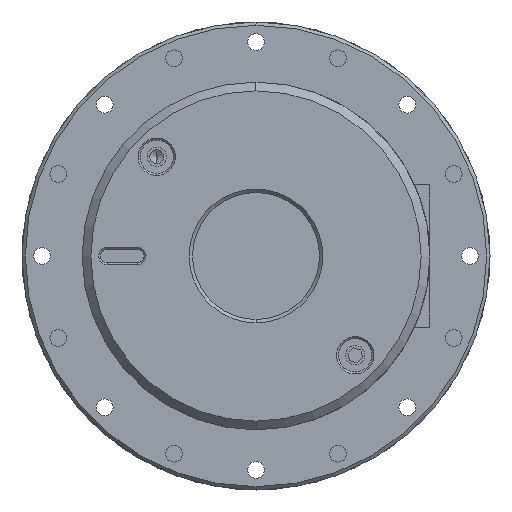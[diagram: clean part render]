
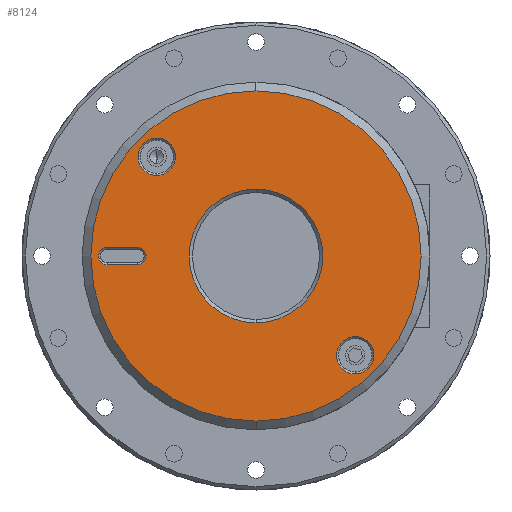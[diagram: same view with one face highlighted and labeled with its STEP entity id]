
A CAD part, left-side view. The second image highlights one B-rep face of the part: STEP entity #8124.
In plain terms, the highlighted planar face has unit normal (-1, 0, 0) as drawn and (0, 0, 1) by its records, which use the part's own axes.
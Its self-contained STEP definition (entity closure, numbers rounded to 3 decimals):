
#408 = EDGE_CURVE ( 'NONE', #1003, #24304, #21959, .T. ) ;
#527 = CARTESIAN_POINT ( 'NONE',  ( -1.3, -17.75, 7. ) ) ;
#535 = ORIENTED_EDGE ( 'NONE', *, *, #14754, .T. ) ;
#671 = CARTESIAN_POINT ( 'NONE',  ( -12.049, -14.849, 7. ) ) ;
#722 = VERTEX_POINT ( 'NONE', #18734 ) ;
#1003 = VERTEX_POINT ( 'NONE', #30877 ) ;
#1146 = EDGE_CURVE ( 'NONE', #28635, #722, #4173, .T. ) ;
#2706 = ORIENTED_EDGE ( 'NONE', *, *, #5081, .T. ) ;
#2815 = DIRECTION ( 'NONE',  ( 0., 0., 1. ) ) ;
#3268 = EDGE_CURVE ( 'NONE', #24304, #1003, #20725, .T. ) ;
#3507 = DIRECTION ( 'NONE',  ( 0., 0., 1. ) ) ;
#3764 = DIRECTION ( 'NONE',  ( 1., 0., 0. ) ) ;
#3951 = CARTESIAN_POINT ( 'NONE',  ( 0., 0., 7. ) ) ;
#3984 = PLANE ( 'NONE',  #8716 ) ;
#3997 = DIRECTION ( 'NONE',  ( 0., 0., 1. ) ) ;
#4067 = ORIENTED_EDGE ( 'NONE', *, *, #18912, .T. ) ;
#4173 = CIRCLE ( 'NONE', #28838, 10. ) ;
#4204 = CARTESIAN_POINT ( 'NONE',  ( 1.3, -17.75, 7. ) ) ;
#4443 = EDGE_CURVE ( 'NONE', #7850, #7074, #23476, .T. ) ;
#4504 = VERTEX_POINT ( 'NONE', #527 ) ;
#4509 = CIRCLE ( 'NONE', #30205, 1.3 ) ;
#4536 = CARTESIAN_POINT ( 'NONE',  ( -1.3, -17.75, 7. ) ) ;
#4873 = DIRECTION ( 'NONE',  ( 0., 0., -1. ) ) ;
#4979 = EDGE_LOOP ( 'NONE', ( #20133, #19145 ) ) ;
#5081 = EDGE_CURVE ( 'NONE', #5717, #5670, #32651, .T. ) ;
#5238 = CARTESIAN_POINT ( 'NONE',  ( -24.7, 0., 7. ) ) ;
#5454 = FACE_BOUND ( 'NONE', #9508, .T. ) ;
#5670 = VERTEX_POINT ( 'NONE', #18572 ) ;
#5717 = VERTEX_POINT ( 'NONE', #4204 ) ;
#6297 = DIRECTION ( 'NONE',  ( 0., 0., 1. ) ) ;
#6575 = CARTESIAN_POINT ( 'NONE',  ( -1.3, -22.25, 7. ) ) ;
#6677 = CARTESIAN_POINT ( 'NONE',  ( 14.849, 14.849, 7. ) ) ;
#6785 = DIRECTION ( 'NONE',  ( 1., 0., 0. ) ) ;
#7074 = VERTEX_POINT ( 'NONE', #21560 ) ;
#7361 = VERTEX_POINT ( 'NONE', #671 ) ;
#7500 = EDGE_LOOP ( 'NONE', ( #30985, #21871 ) ) ;
#7512 = DIRECTION ( 'NONE',  ( 0., 0., 1. ) ) ;
#7850 = VERTEX_POINT ( 'NONE', #5238 ) ;
#8124 = ADVANCED_FACE ( 'NONE', ( #5454, #12338, #32849, #18364, #11507 ), #3984, .T. ) ;
#8716 = AXIS2_PLACEMENT_3D ( 'NONE', #9039, #9154, #27185 ) ;
#8839 = DIRECTION ( 'NONE',  ( 0., 0., 1. ) ) ;
#9039 = CARTESIAN_POINT ( 'NONE',  ( 0., 0., 7. ) ) ;
#9154 = DIRECTION ( 'NONE',  ( 0., 0., 1. ) ) ;
#9508 = EDGE_LOOP ( 'NONE', ( #31381, #2706, #4067, #535 ) ) ;
#9867 = DIRECTION ( 'NONE',  ( 0., 0., -1. ) ) ;
#10090 = DIRECTION ( 'NONE',  ( 0., 0., 1. ) ) ;
#10450 = EDGE_CURVE ( 'NONE', #722, #28635, #28978, .T. ) ;
#10911 = ORIENTED_EDGE ( 'NONE', *, *, #1146, .F. ) ;
#11197 = DIRECTION ( 'NONE',  ( 1., 0., 0. ) ) ;
#11507 = FACE_BOUND ( 'NONE', #26629, .T. ) ;
#11594 = AXIS2_PLACEMENT_3D ( 'NONE', #22971, #7512, #25559 ) ;
#12338 = FACE_BOUND ( 'NONE', #4979, .T. ) ;
#12354 = DIRECTION ( 'NONE',  ( 0., 0., 1. ) ) ;
#12715 = AXIS2_PLACEMENT_3D ( 'NONE', #6677, #6297, #6785 ) ;
#12962 = ORIENTED_EDGE ( 'NONE', *, *, #3268, .F. ) ;
#13174 = ORIENTED_EDGE ( 'NONE', *, *, #10450, .F. ) ;
#13646 = AXIS2_PLACEMENT_3D ( 'NONE', #18270, #2815, #20864 ) ;
#14754 = EDGE_CURVE ( 'NONE', #30194, #4504, #17049, .T. ) ;
#14842 = VERTEX_POINT ( 'NONE', #28091 ) ;
#14946 = EDGE_CURVE ( 'NONE', #14842, #7361, #24296, .T. ) ;
#16709 = CARTESIAN_POINT ( 'NONE',  ( 17.649, 14.849, 7. ) ) ;
#16836 = CIRCLE ( 'NONE', #31167, 1.3 ) ;
#17049 = LINE ( 'NONE', #4536, #24707 ) ;
#17901 = AXIS2_PLACEMENT_3D ( 'NONE', #27780, #12354, #30367 ) ;
#17982 = DIRECTION ( 'NONE',  ( 0., -1., 0. ) ) ;
#18270 = CARTESIAN_POINT ( 'NONE',  ( -14.849, -14.849, 7. ) ) ;
#18364 = FACE_OUTER_BOUND ( 'NONE', #7500, .T. ) ;
#18572 = CARTESIAN_POINT ( 'NONE',  ( 1.3, -22.25, 7. ) ) ;
#18667 = ORIENTED_EDGE ( 'NONE', *, *, #408, .F. ) ;
#18734 = CARTESIAN_POINT ( 'NONE',  ( 10., 0., 7. ) ) ;
#18756 = AXIS2_PLACEMENT_3D ( 'NONE', #3951, #3997, #3764 ) ;
#18912 = EDGE_CURVE ( 'NONE', #5670, #30194, #16836, .T. ) ;
#18969 = CARTESIAN_POINT ( 'NONE',  ( 14.849, 14.849, 7. ) ) ;
#19145 = ORIENTED_EDGE ( 'NONE', *, *, #14946, .F. ) ;
#20133 = ORIENTED_EDGE ( 'NONE', *, *, #31974, .F. ) ;
#20176 = CARTESIAN_POINT ( 'NONE',  ( 1.3, -22.25, 7. ) ) ;
#20325 = CARTESIAN_POINT ( 'NONE',  ( 0., -17.75, 7. ) ) ;
#20725 = CIRCLE ( 'NONE', #12715, 2.8 ) ;
#20864 = DIRECTION ( 'NONE',  ( 1., 0., 0. ) ) ;
#21560 = CARTESIAN_POINT ( 'NONE',  ( 24.7, 0., 7. ) ) ;
#21871 = ORIENTED_EDGE ( 'NONE', *, *, #30324, .T. ) ;
#21959 = CIRCLE ( 'NONE', #27297, 2.8 ) ;
#22190 = AXIS2_PLACEMENT_3D ( 'NONE', #24290, #8839, #26871 ) ;
#22326 = CARTESIAN_POINT ( 'NONE',  ( -10., 0., 7. ) ) ;
#22575 = DIRECTION ( 'NONE',  ( 0., 1., 0. ) ) ;
#22914 = DIRECTION ( 'NONE',  ( 1., 0., 0. ) ) ;
#22971 = CARTESIAN_POINT ( 'NONE',  ( 0., 0., 7. ) ) ;
#23046 = CARTESIAN_POINT ( 'NONE',  ( 0., 0., 7. ) ) ;
#23476 = CIRCLE ( 'NONE', #18756, 24.7 ) ;
#24290 = CARTESIAN_POINT ( 'NONE',  ( -14.849, -14.849, 7. ) ) ;
#24296 = CIRCLE ( 'NONE', #13646, 2.8 ) ;
#24304 = VERTEX_POINT ( 'NONE', #16709 ) ;
#24403 = CIRCLE ( 'NONE', #17901, 24.7 ) ;
#24625 = EDGE_LOOP ( 'NONE', ( #12962, #18667 ) ) ;
#24707 = VECTOR ( 'NONE', #22575, 1000. ) ;
#25313 = CARTESIAN_POINT ( 'NONE',  ( 0., -22.25, 7. ) ) ;
#25503 = CIRCLE ( 'NONE', #22190, 2.8 ) ;
#25528 = DIRECTION ( 'NONE',  ( 1., 0., 0. ) ) ;
#25559 = DIRECTION ( 'NONE',  ( 1., 0., 0. ) ) ;
#26629 = EDGE_LOOP ( 'NONE', ( #13174, #10911 ) ) ;
#26635 = VECTOR ( 'NONE', #17982, 1000. ) ;
#26871 = DIRECTION ( 'NONE',  ( 1., 0., 0. ) ) ;
#27185 = DIRECTION ( 'NONE',  ( 1., 0., 0. ) ) ;
#27297 = AXIS2_PLACEMENT_3D ( 'NONE', #18969, #3507, #11197 ) ;
#27780 = CARTESIAN_POINT ( 'NONE',  ( 0., 0., 7. ) ) ;
#27900 = DIRECTION ( 'NONE',  ( 1., 0., 0. ) ) ;
#28091 = CARTESIAN_POINT ( 'NONE',  ( -17.649, -14.849, 7. ) ) ;
#28635 = VERTEX_POINT ( 'NONE', #22326 ) ;
#28838 = AXIS2_PLACEMENT_3D ( 'NONE', #23046, #10090, #25528 ) ;
#28978 = CIRCLE ( 'NONE', #11594, 10. ) ;
#30194 = VERTEX_POINT ( 'NONE', #6575 ) ;
#30205 = AXIS2_PLACEMENT_3D ( 'NONE', #20325, #4873, #22914 ) ;
#30324 = EDGE_CURVE ( 'NONE', #7074, #7850, #24403, .T. ) ;
#30367 = DIRECTION ( 'NONE',  ( 1., 0., 0. ) ) ;
#30877 = CARTESIAN_POINT ( 'NONE',  ( 12.049, 14.849, 7. ) ) ;
#30985 = ORIENTED_EDGE ( 'NONE', *, *, #4443, .T. ) ;
#31167 = AXIS2_PLACEMENT_3D ( 'NONE', #25313, #9867, #27900 ) ;
#31381 = ORIENTED_EDGE ( 'NONE', *, *, #32258, .T. ) ;
#31974 = EDGE_CURVE ( 'NONE', #7361, #14842, #25503, .T. ) ;
#32258 = EDGE_CURVE ( 'NONE', #4504, #5717, #4509, .T. ) ;
#32651 = LINE ( 'NONE', #20176, #26635 ) ;
#32849 = FACE_BOUND ( 'NONE', #24625, .T. ) ;
